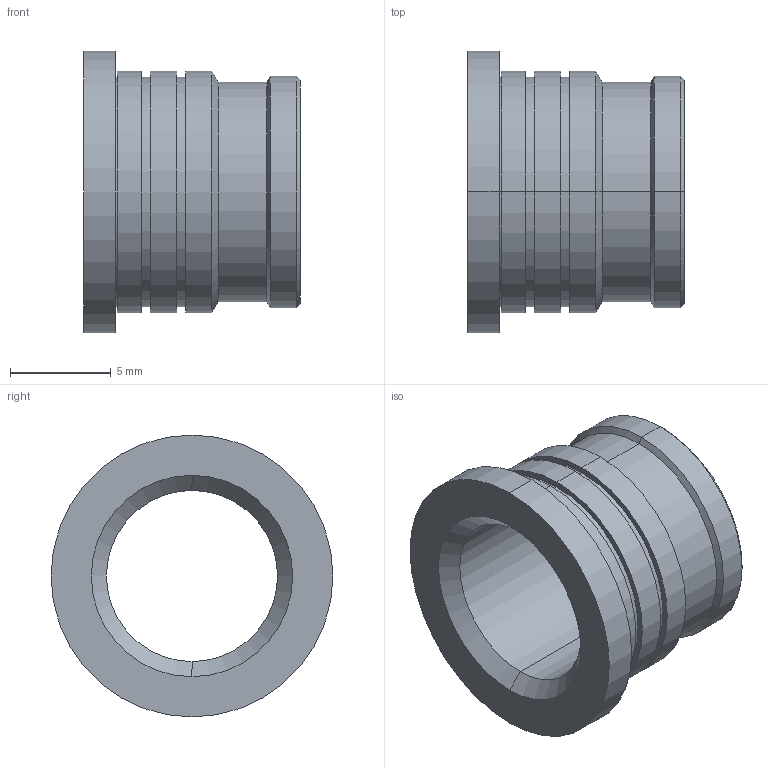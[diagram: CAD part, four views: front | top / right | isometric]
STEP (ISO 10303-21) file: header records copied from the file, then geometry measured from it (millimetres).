
FILE_DESCRIPTION (( 'STEP AP203' ), '1' );
FILE_NAME ('FSUK-MUH-M10-S.STEP', '2021-04-15T13:24:45', ( '' ), ( '' ), 'SwSTEP 2.0', 'SolidWorks 2021', '' );
FILE_SCHEMA (( 'CONFIG_CONTROL_DESIGN' ));
Length unit declared in the file: millimetre
Products named in the file (1): FSUK-MUH-M10-S
Bounding box: 10.77 x 14 x 14 mm (x, y, z)
Volume: 576.2 mm3; surface area: 932.5 mm2
Topology: 1 solids, 1 shells, 38 faces, 76 edges, 46 vertices
Faces by surface type: cylinder 20, cone 10, plane 8
Entity records: 1075 total; most frequent: DIRECTION 200, CARTESIAN_POINT 161, ORIENTED_EDGE 152, AXIS2_PLACEMENT_3D 85, EDGE_CURVE 76, CIRCLE 46, EDGE_LOOP 46, VERTEX_POINT 46
